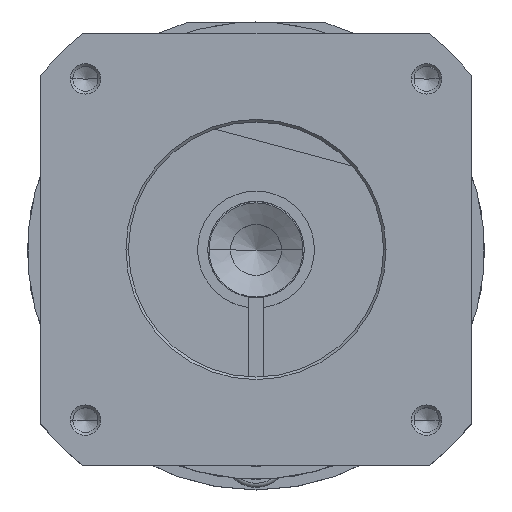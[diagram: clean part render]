
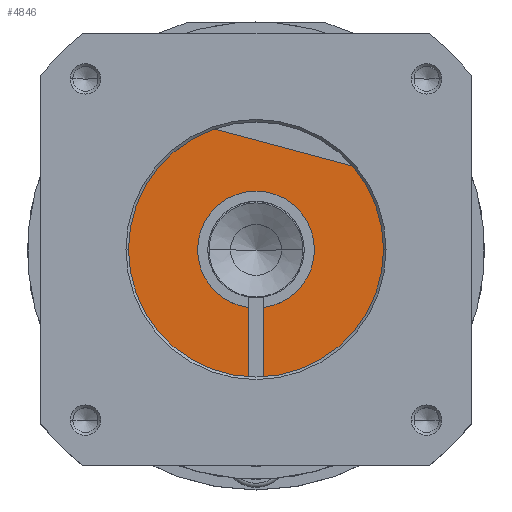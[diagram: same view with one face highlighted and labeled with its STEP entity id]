
A CAD part, top view. The second image highlights one B-rep face of the part: STEP entity #4846.
In plain terms, the highlighted planar face has unit normal (0, 0, 1).
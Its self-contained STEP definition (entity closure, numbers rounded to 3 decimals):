
#80 = CARTESIAN_POINT ( 'NONE',  ( 1.5, -27.459, 246. ) ) ;
#395 = DIRECTION ( 'NONE',  ( -0.966, 0.259, 0. ) ) ;
#565 = CARTESIAN_POINT ( 'NONE',  ( 0., 0., 246. ) ) ;
#1021 = EDGE_CURVE ( 'NONE', #21565, #17070, #17571, .T. ) ;
#1094 = EDGE_CURVE ( 'NONE', #7961, #8190, #6913, .T. ) ;
#1198 = ORIENTED_EDGE ( 'NONE', *, *, #7696, .T. ) ;
#1270 = VERTEX_POINT ( 'NONE', #4913 ) ;
#2350 = CARTESIAN_POINT ( 'NONE',  ( 0., 0., 246. ) ) ;
#2365 = DIRECTION ( 'NONE',  ( 1., 0., 0. ) ) ;
#2387 = CIRCLE ( 'NONE', #8296, 11.5 ) ;
#2675 = DIRECTION ( 'NONE',  ( 0., 0., -1. ) ) ;
#2993 = CIRCLE ( 'NONE', #7289, 11.5 ) ;
#3040 = VERTEX_POINT ( 'NONE', #12481 ) ;
#3977 = EDGE_CURVE ( 'NONE', #8190, #21565, #22049, .T. ) ;
#3992 = AXIS2_PLACEMENT_3D ( 'NONE', #4182, #16715, #5995 ) ;
#4174 = DIRECTION ( 'NONE',  ( 1., 0., 0. ) ) ;
#4182 = CARTESIAN_POINT ( 'NONE',  ( 0., 0., 246. ) ) ;
#4345 = LINE ( 'NONE', #18338, #12771 ) ;
#4510 = CIRCLE ( 'NONE', #5809, 11.5 ) ;
#4763 = ORIENTED_EDGE ( 'NONE', *, *, #19224, .T. ) ;
#4846 = ADVANCED_FACE ( 'NONE', ( #10650 ), #7173, .T. ) ;
#4913 = CARTESIAN_POINT ( 'NONE',  ( 1.5, -11.402, 246. ) ) ;
#5383 = CARTESIAN_POINT ( 'NONE',  ( 0., 19.5, 246. ) ) ;
#5803 = CARTESIAN_POINT ( 'NONE',  ( 11.5, 0., 246. ) ) ;
#5809 = AXIS2_PLACEMENT_3D ( 'NONE', #2350, #14906, #4174 ) ;
#5995 = DIRECTION ( 'NONE',  ( 1., 0., 0. ) ) ;
#6456 = CARTESIAN_POINT ( 'NONE',  ( 0., 0., 246. ) ) ;
#6571 = VERTEX_POINT ( 'NONE', #11896 ) ;
#6777 = AXIS2_PLACEMENT_3D ( 'NONE', #5383, #21350, #10805 ) ;
#6913 = CIRCLE ( 'NONE', #3992, 27.5 ) ;
#7042 = EDGE_CURVE ( 'NONE', #19663, #1270, #2387, .T. ) ;
#7173 = PLANE ( 'NONE',  #6777 ) ;
#7289 = AXIS2_PLACEMENT_3D ( 'NONE', #565, #13164, #2365 ) ;
#7416 = ORIENTED_EDGE ( 'NONE', *, *, #8205, .T. ) ;
#7696 = EDGE_CURVE ( 'NONE', #6571, #3040, #4345, .T. ) ;
#7814 = DIRECTION ( 'NONE',  ( 0., 0., 1. ) ) ;
#7892 = ORIENTED_EDGE ( 'NONE', *, *, #1021, .T. ) ;
#7961 = VERTEX_POINT ( 'NONE', #80 ) ;
#8190 = VERTEX_POINT ( 'NONE', #17104 ) ;
#8205 = EDGE_CURVE ( 'NONE', #17070, #6571, #21253, .T. ) ;
#8246 = DIRECTION ( 'NONE',  ( 1., 0., 0. ) ) ;
#8296 = AXIS2_PLACEMENT_3D ( 'NONE', #13454, #2675, #15211 ) ;
#8996 = EDGE_LOOP ( 'NONE', ( #22265, #17903, #10055, #7892, #7416, #1198, #21158, #4763, #11961 ) ) ;
#10055 = ORIENTED_EDGE ( 'NONE', *, *, #3977, .T. ) ;
#10650 = FACE_OUTER_BOUND ( 'NONE', #8996, .T. ) ;
#10805 = DIRECTION ( 'NONE',  ( 1., 0., 0. ) ) ;
#11896 = CARTESIAN_POINT ( 'NONE',  ( -1.5, -27.459, 246. ) ) ;
#11961 = ORIENTED_EDGE ( 'NONE', *, *, #7042, .T. ) ;
#12282 = VERTEX_POINT ( 'NONE', #19732 ) ;
#12481 = CARTESIAN_POINT ( 'NONE',  ( -1.5, -11.402, 246. ) ) ;
#12771 = VECTOR ( 'NONE', #16957, 1000. ) ;
#13164 = DIRECTION ( 'NONE',  ( 0., 0., -1. ) ) ;
#13454 = CARTESIAN_POINT ( 'NONE',  ( 0., 0., 246. ) ) ;
#13927 = CARTESIAN_POINT ( 'NONE',  ( -12.006, 24.741, 246. ) ) ;
#14906 = DIRECTION ( 'NONE',  ( 0., 0., -1. ) ) ;
#15211 = DIRECTION ( 'NONE',  ( 1., 0., 0. ) ) ;
#15797 = EDGE_CURVE ( 'NONE', #3040, #12282, #2993, .T. ) ;
#16715 = DIRECTION ( 'NONE',  ( 0., 0., 1. ) ) ;
#16957 = DIRECTION ( 'NONE',  ( 0., 1., 0. ) ) ;
#17021 = VECTOR ( 'NONE', #395, 1000. ) ;
#17070 = VERTEX_POINT ( 'NONE', #13927 ) ;
#17104 = CARTESIAN_POINT ( 'NONE',  ( 27.5, 0., 246. ) ) ;
#17571 = LINE ( 'NONE', #19979, #17021 ) ;
#17903 = ORIENTED_EDGE ( 'NONE', *, *, #1094, .T. ) ;
#18338 = CARTESIAN_POINT ( 'NONE',  ( -1.5, -9.381, 246. ) ) ;
#18475 = VECTOR ( 'NONE', #21010, 1000. ) ;
#18517 = CARTESIAN_POINT ( 'NONE',  ( 0., 0., 246. ) ) ;
#18925 = DIRECTION ( 'NONE',  ( 0., 0., 1. ) ) ;
#19224 = EDGE_CURVE ( 'NONE', #12282, #19663, #4510, .T. ) ;
#19446 = EDGE_CURVE ( 'NONE', #1270, #7961, #23093, .T. ) ;
#19663 = VERTEX_POINT ( 'NONE', #5803 ) ;
#19732 = CARTESIAN_POINT ( 'NONE',  ( -11.5, 0., 246. ) ) ;
#19979 = CARTESIAN_POINT ( 'NONE',  ( 22.768, 15.423, 246. ) ) ;
#20237 = DIRECTION ( 'NONE',  ( 1., 0., 0. ) ) ;
#20939 = CARTESIAN_POINT ( 'NONE',  ( 1.5, -33., 246. ) ) ;
#21010 = DIRECTION ( 'NONE',  ( 0., -1., 0. ) ) ;
#21081 = AXIS2_PLACEMENT_3D ( 'NONE', #6456, #18925, #8246 ) ;
#21158 = ORIENTED_EDGE ( 'NONE', *, *, #15797, .T. ) ;
#21253 = CIRCLE ( 'NONE', #21081, 27.5 ) ;
#21350 = DIRECTION ( 'NONE',  ( 0., 0., 1. ) ) ;
#21565 = VERTEX_POINT ( 'NONE', #21735 ) ;
#21735 = CARTESIAN_POINT ( 'NONE',  ( 22.768, 15.423, 246. ) ) ;
#22049 = CIRCLE ( 'NONE', #22803, 27.5 ) ;
#22265 = ORIENTED_EDGE ( 'NONE', *, *, #19446, .T. ) ;
#22803 = AXIS2_PLACEMENT_3D ( 'NONE', #18517, #7814, #20237 ) ;
#23093 = LINE ( 'NONE', #20939, #18475 ) ;
